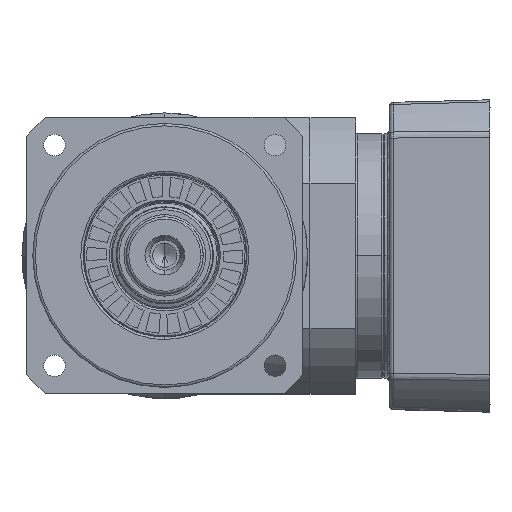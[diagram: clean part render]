
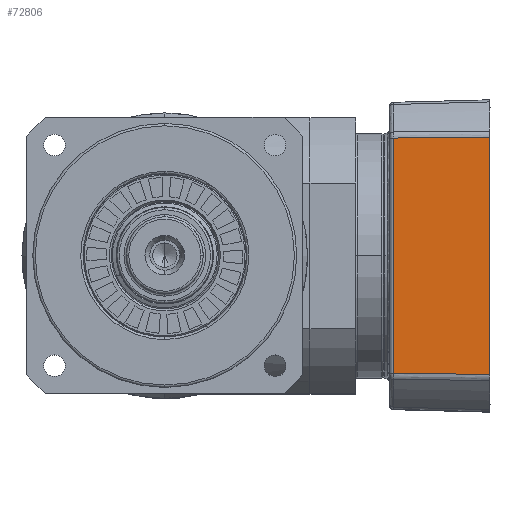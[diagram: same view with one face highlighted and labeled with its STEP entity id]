
A CAD part, top view. The second image highlights one B-rep face of the part: STEP entity #72806.
In plain terms, the highlighted planar face has unit normal (-0.026, 0, 1) as drawn and (-0.026, -1, 0) by its records, which use the part's own axes.
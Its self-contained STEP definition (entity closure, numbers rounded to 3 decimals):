
#1013 = VERTEX_POINT ( 'NONE', #61089 ) ;
#1432 = CARTESIAN_POINT ( 'NONE',  ( -46766.354, -65., 50.806 ) ) ;
#1690 = AXIS2_PLACEMENT_3D ( 'NONE', #1432, #47636, #8063 ) ;
#4158 = EDGE_LOOP ( 'NONE', ( #48923, #63320, #67844, #71973 ) ) ;
#6152 = VECTOR ( 'NONE', #22909, 1000. ) ;
#8063 = DIRECTION ( 'NONE',  ( -1., 0.026, 0. ) ) ;
#12316 = LINE ( 'NONE', #28882, #47485 ) ;
#16765 = DIRECTION ( 'NONE',  ( 0., 0., -1. ) ) ;
#21088 = PLANE ( 'NONE',  #1690 ) ;
#22294 = EDGE_CURVE ( 'NONE', #75743, #53297, #57316, .T. ) ;
#22909 = DIRECTION ( 'NONE',  ( -1., 0.026, 0.009 ) ) ;
#23434 = CARTESIAN_POINT ( 'NONE',  ( -46766.354, -65., 50.806 ) ) ;
#23498 = EDGE_CURVE ( 'NONE', #58148, #1013, #43866, .T. ) ;
#26284 = VECTOR ( 'NONE', #68514, 1000. ) ;
#26875 = CARTESIAN_POINT ( 'NONE',  ( -46766.354, -65., -49.409 ) ) ;
#28882 = CARTESIAN_POINT ( 'NONE',  ( -46806.406, -63.951, 49.037 ) ) ;
#28964 = CARTESIAN_POINT ( 'NONE',  ( -46806.406, -63.951, 50.806 ) ) ;
#29524 = CARTESIAN_POINT ( 'NONE',  ( -46766.354, -65., -49.409 ) ) ;
#37196 = EDGE_CURVE ( 'NONE', #53297, #58148, #76428, .T. ) ;
#39805 = VECTOR ( 'NONE', #16765, 1000. ) ;
#40289 = FACE_OUTER_BOUND ( 'NONE', #4158, .T. ) ;
#43866 = LINE ( 'NONE', #28964, #26284 ) ;
#46651 = EDGE_CURVE ( 'NONE', #1013, #75743, #12316, .T. ) ;
#47485 = VECTOR ( 'NONE', #75103, 1000. ) ;
#47636 = DIRECTION ( 'NONE',  ( 0.026, 1., 0. ) ) ;
#48923 = ORIENTED_EDGE ( 'NONE', *, *, #46651, .F. ) ;
#53297 = VERTEX_POINT ( 'NONE', #26875 ) ;
#57316 = LINE ( 'NONE', #23434, #39805 ) ;
#58148 = VERTEX_POINT ( 'NONE', #78135 ) ;
#61089 = CARTESIAN_POINT ( 'NONE',  ( -46806.406, -63.951, 49.037 ) ) ;
#63320 = ORIENTED_EDGE ( 'NONE', *, *, #23498, .F. ) ;
#67844 = ORIENTED_EDGE ( 'NONE', *, *, #37196, .F. ) ;
#68514 = DIRECTION ( 'NONE',  ( 0., 0., 1. ) ) ;
#71973 = ORIENTED_EDGE ( 'NONE', *, *, #22294, .F. ) ;
#72806 = ADVANCED_FACE ( 'NONE', ( #40289 ), #21088, .F. ) ;
#73853 = CARTESIAN_POINT ( 'NONE',  ( -46766.354, -65., 49.409 ) ) ;
#75103 = DIRECTION ( 'NONE',  ( 1., -0.026, 0.009 ) ) ;
#75743 = VERTEX_POINT ( 'NONE', #73853 ) ;
#76428 = LINE ( 'NONE', #29524, #6152 ) ;
#78135 = CARTESIAN_POINT ( 'NONE',  ( -46806.406, -63.951, -49.037 ) ) ;
